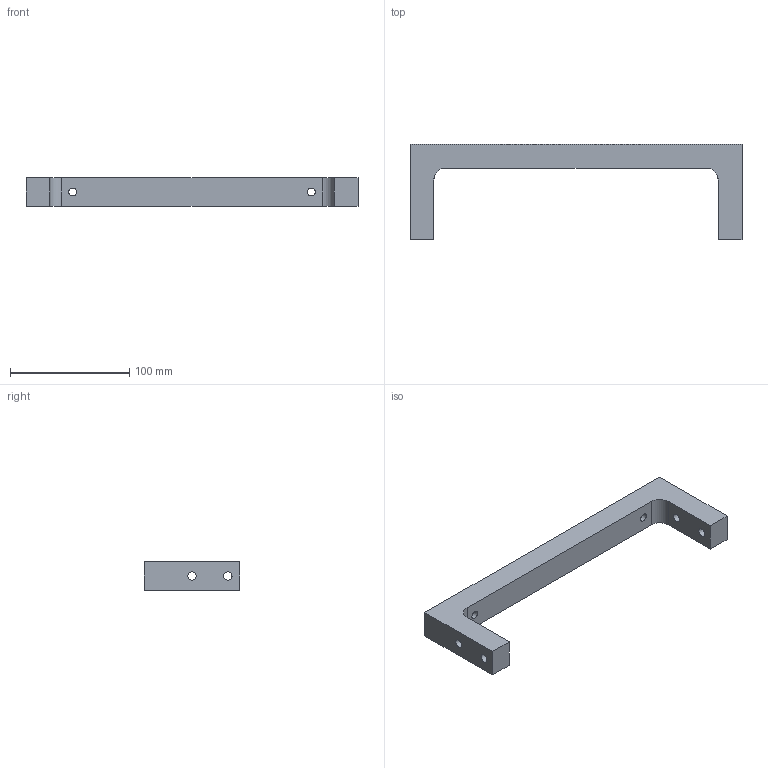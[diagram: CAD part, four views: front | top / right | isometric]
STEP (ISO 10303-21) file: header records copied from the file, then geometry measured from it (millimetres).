
FILE_DESCRIPTION(('STEP AP203'), '1');
FILE_NAME('ﾒﾏﾏﾔ1800.01.01.09.006 ﾐ裔', '', ('UNSPECIFIED'), ('UNSPECIFIED'), 'C3D Converter', 'C3D Toolkit', '');
FILE_SCHEMA(('CONFIG_CONTROL_DESIGN'));
Length unit declared in the file: millimetre
Products named in the file (1): ТППФ1800.01.01.09.006
Bounding box: 278 x 80 x 24 mm (x, y, z)
Volume: 186938.6 mm3; surface area: 38692.9 mm2
Topology: 1 solids, 1 shells, 38 faces, 88 edges, 56 vertices
Faces by surface type: plane 16, cylinder 14, cone 8
Full cylindrical faces by diameter (mm): 3.242 x6, 6.647 x2, 7 x4
Entity records: 1542 total; most frequent: CARTESIAN_POINT 347, DIRECTION 182, ORIENTED_EDGE 136, EDGE_LOOP 78, AXIS2_PLACEMENT_3D 77, EDGE_CURVE 68, VERTEX_POINT 56, FACE_BOUND 40
